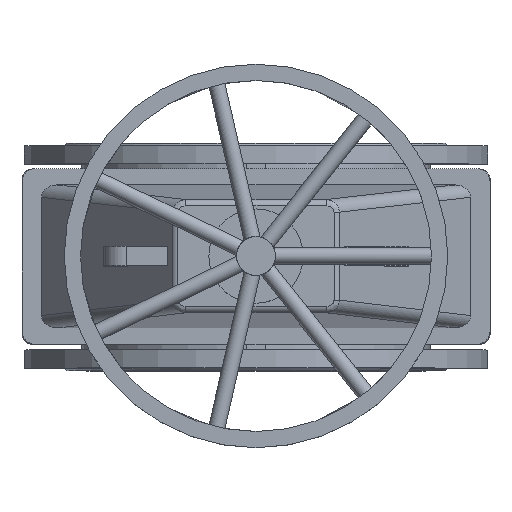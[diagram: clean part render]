
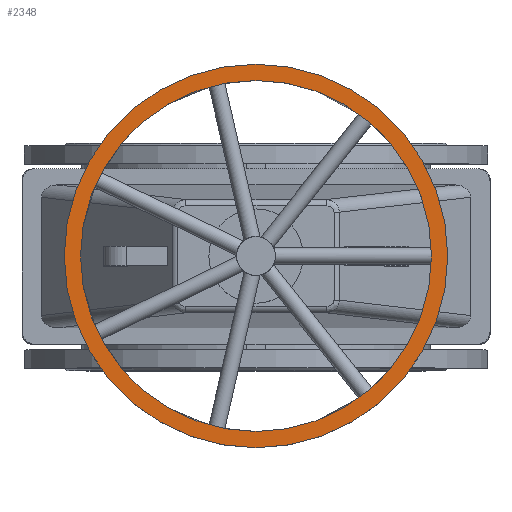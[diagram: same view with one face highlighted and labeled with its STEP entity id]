
A CAD part, top view. The second image highlights one B-rep face of the part: STEP entity #2348.
In plain terms, the highlighted planar face has unit normal (0, 0, 1).
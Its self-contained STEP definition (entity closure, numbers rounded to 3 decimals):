
#2348=ADVANCED_FACE('',(#4954,#4956),#4958,.T.);
#4954=FACE_BOUND('',#4955,.T.);
#4955=EDGE_LOOP('',(#7943));
#4956=FACE_BOUND('',#4957,.T.);
#4957=EDGE_LOOP('',(#7944));
#4958=PLANE('',#4959);
#4959=AXIS2_PLACEMENT_3D('',#4960,#4961,#4962);
#4960=CARTESIAN_POINT('',(0.,0.,1000.));
#4961=DIRECTION('',(0.,0.,1.));
#4962=DIRECTION('',(0.,-1.,0.));
#7943=ORIENTED_EDGE('',*,*,#8977,.T.);
#7944=ORIENTED_EDGE('',*,*,#8975,.T.);
#8975=EDGE_CURVE('',#10385,#10385,#10386,.F.);
#8977=EDGE_CURVE('',#10389,#10389,#10390,.T.);
#10385=VERTEX_POINT('',#15618);
#10386=CIRCLE('',#15619,270.);
#10389=VERTEX_POINT('',#15628);
#10390=CIRCLE('',#15629,295.);
#15618=CARTESIAN_POINT('',(0.,-270.,1000.));
#15619=AXIS2_PLACEMENT_3D('',#15620,#15621,#15622);
#15620=CARTESIAN_POINT('',(0.,0.,1000.));
#15621=DIRECTION('',(0.,0.,1.));
#15622=DIRECTION('',(0.,-1.,0.));
#15628=CARTESIAN_POINT('',(0.,-295.,1000.));
#15629=AXIS2_PLACEMENT_3D('',#15630,#15631,#15632);
#15630=CARTESIAN_POINT('',(0.,0.,1000.));
#15631=DIRECTION('',(0.,0.,1.));
#15632=DIRECTION('',(0.,-1.,0.));
